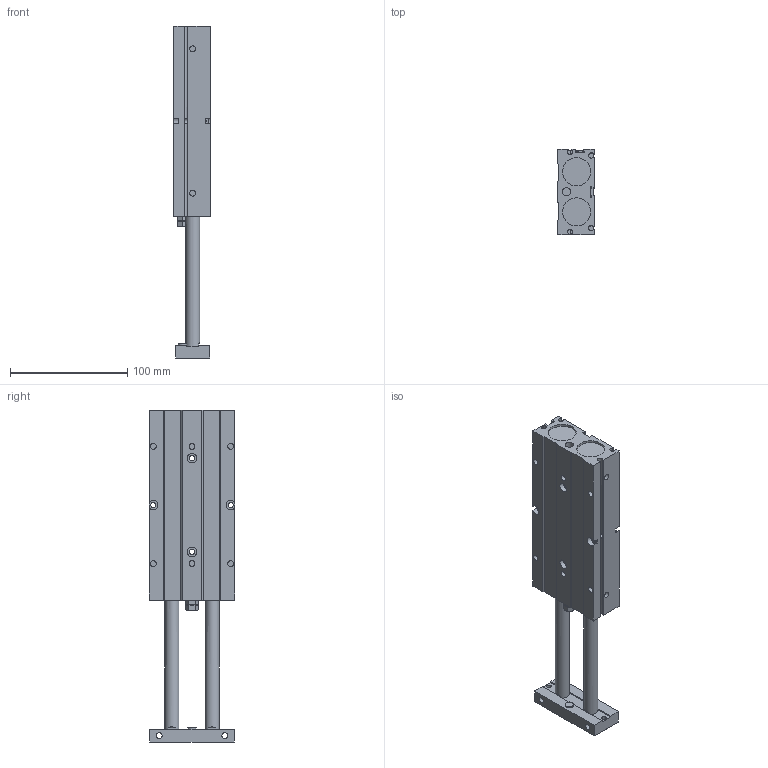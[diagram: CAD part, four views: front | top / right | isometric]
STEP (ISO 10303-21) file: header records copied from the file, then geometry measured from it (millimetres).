
FILE_DESCRIPTION((''),'2;1');
FILE_NAME('I:\3D電子目錄\氣缸\TD\TD25\TD25\TD25x100.stp','2007-08-06T09:53:04',('Administrator'),(''),'Autodesk Inventor 2008','Autodesk Inventor 2008','');
FILE_SCHEMA(('AUTOMOTIVE_DESIGN { 1 0 10303 214 1 1 1 1 }'));
Length unit declared in the file: millimetre
Products named in the file (1): TD25X100
Bounding box: 31 x 73 x 283 mm (x, y, z)
Volume: 380796.8 mm3; surface area: 67479.1 mm2
Topology: 1 solids, 3 shells, 197 faces, 494 edges, 324 vertices
Faces by surface type: plane 132, cylinder 52, cone 7, bspline 4, torus 2
Full cylindrical faces by diameter (mm): 4 x2, 4.5 x4, 5 x10, 7 x2, 8 x4, 10 x2, 11 x2, 12 x4, 24 x4
Entity records: 6021 total; most frequent: CARTESIAN_POINT 1449, DIRECTION 915, ORIENTED_EDGE 878, EDGE_CURVE 439, VERTEX_POINT 314, AXIS2_PLACEMENT_3D 312, VECTOR 291, LINE 291
